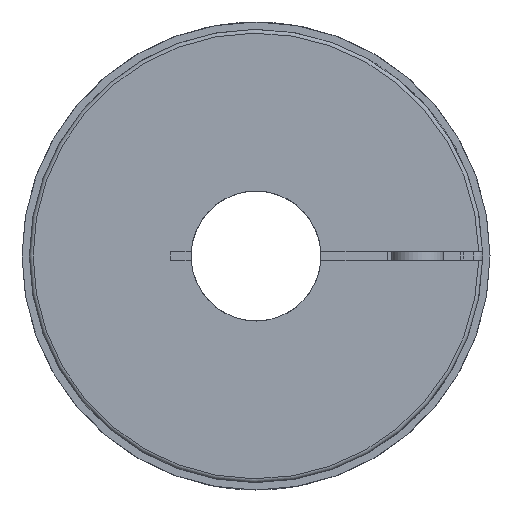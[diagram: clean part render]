
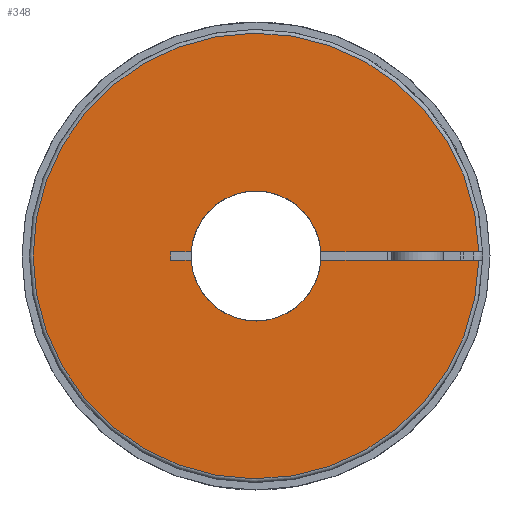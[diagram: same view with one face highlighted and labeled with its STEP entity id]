
A CAD part, left-side view. The second image highlights one B-rep face of the part: STEP entity #348.
In plain terms, the highlighted planar face has unit normal (-1, 0, 0).
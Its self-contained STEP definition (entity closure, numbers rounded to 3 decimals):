
#348 = ADVANCED_FACE( '', ( #789 ), #790, .T. );
#789 = FACE_OUTER_BOUND( '', #1309, .T. );
#790 = PLANE( '', #1310 );
#1309 = EDGE_LOOP( '', ( #2216, #2217, #2218, #2219, #2220, #2221, #2222, #2223 ) );
#1310 = AXIS2_PLACEMENT_3D( '', #2224, #2225, #2226 );
#2216 = ORIENTED_EDGE( '', *, *, #2684, .F. );
#2217 = ORIENTED_EDGE( '', *, *, #2729, .T. );
#2218 = ORIENTED_EDGE( '', *, *, #3013, .F. );
#2219 = ORIENTED_EDGE( '', *, *, #2930, .F. );
#2220 = ORIENTED_EDGE( '', *, *, #2974, .F. );
#2221 = ORIENTED_EDGE( '', *, *, #2695, .T. );
#2222 = ORIENTED_EDGE( '', *, *, #2895, .F. );
#2223 = ORIENTED_EDGE( '', *, *, #2843, .T. );
#2224 = CARTESIAN_POINT( '', ( 0., 15.5, 0. ) );
#2225 = DIRECTION( '', ( -1., 0., 0. ) );
#2226 = DIRECTION( '', ( 0., 0., 1. ) );
#2684 = EDGE_CURVE( '', #3128, #3130, #3131, .T. );
#2695 = EDGE_CURVE( '', #3151, #3149, #3152, .T. );
#2729 = EDGE_CURVE( '', #3128, #3207, #3209, .T. );
#2843 = EDGE_CURVE( '', #3396, #3130, #3399, .T. );
#2895 = EDGE_CURVE( '', #3396, #3149, #3477, .T. );
#2930 = EDGE_CURVE( '', #3529, #3530, #3531, .T. );
#2974 = EDGE_CURVE( '', #3151, #3529, #3590, .T. );
#3013 = EDGE_CURVE( '', #3530, #3207, #3641, .T. );
#3128 = VERTEX_POINT( '', #3768 );
#3130 = VERTEX_POINT( '', #3771 );
#3131 = LINE( '', #3772, #3773 );
#3149 = VERTEX_POINT( '', #3810 );
#3151 = VERTEX_POINT( '', #3813 );
#3152 = CIRCLE( '', #3814, 17.5 );
#3207 = VERTEX_POINT( '', #3879 );
#3209 = CIRCLE( '', #3882, 17.5 );
#3396 = VERTEX_POINT( '', #4298 );
#3399 = CIRCLE( '', #4308, 60. );
#3477 = LINE( '', #4408, #4409 );
#3529 = VERTEX_POINT( '', #4476 );
#3530 = VERTEX_POINT( '', #4477 );
#3531 = LINE( '', #4478, #4479 );
#3590 = LINE( '', #4728, #4729 );
#3641 = LINE( '', #4797, #4798 );
#3768 = CARTESIAN_POINT( '', ( 0., -17.459, -1.2 ) );
#3771 = CARTESIAN_POINT( '', ( 0., -59.988, -1.2 ) );
#3772 = CARTESIAN_POINT( '', ( 0., 23., -1.2 ) );
#3773 = VECTOR( '', #5032, 1000. );
#3810 = CARTESIAN_POINT( '', ( 0., -17.459, 1.2 ) );
#3813 = CARTESIAN_POINT( '', ( 0., 17.459, 1.2 ) );
#3814 = AXIS2_PLACEMENT_3D( '', #5042, #5043, #5044 );
#3879 = CARTESIAN_POINT( '', ( 0., 17.459, -1.2 ) );
#3882 = AXIS2_PLACEMENT_3D( '', #5095, #5096, #5097 );
#4298 = CARTESIAN_POINT( '', ( 0., -59.988, 1.2 ) );
#4308 = AXIS2_PLACEMENT_3D( '', #5261, #5262, #5263 );
#4408 = CARTESIAN_POINT( '', ( 0., 23., 1.2 ) );
#4409 = VECTOR( '', #5345, 1000. );
#4476 = CARTESIAN_POINT( '', ( 0., 23., 1.2 ) );
#4477 = CARTESIAN_POINT( '', ( 0., 23., -1.2 ) );
#4478 = CARTESIAN_POINT( '', ( 0., 23., -1.2 ) );
#4479 = VECTOR( '', #5398, 1000. );
#4728 = CARTESIAN_POINT( '', ( 0., 23., 1.2 ) );
#4729 = VECTOR( '', #5449, 1000. );
#4797 = CARTESIAN_POINT( '', ( 0., 23., -1.2 ) );
#4798 = VECTOR( '', #5495, 1000. );
#5032 = DIRECTION( '', ( 0., -1., 0. ) );
#5042 = CARTESIAN_POINT( '', ( 0., 0., 0. ) );
#5043 = DIRECTION( '', ( 1., 0., 0. ) );
#5044 = DIRECTION( '', ( 0., -1., 0. ) );
#5095 = CARTESIAN_POINT( '', ( 0., 0., 0. ) );
#5096 = DIRECTION( '', ( 1., 0., 0. ) );
#5097 = DIRECTION( '', ( 0., -1., 0. ) );
#5261 = CARTESIAN_POINT( '', ( 0., 0., 0. ) );
#5262 = DIRECTION( '', ( -1., 0., 0. ) );
#5263 = DIRECTION( '', ( 0., 1., 0. ) );
#5345 = DIRECTION( '', ( 0., 1., 0. ) );
#5398 = DIRECTION( '', ( 0., 0., -1. ) );
#5449 = DIRECTION( '', ( 0., 1., 0. ) );
#5495 = DIRECTION( '', ( 0., -1., 0. ) );
